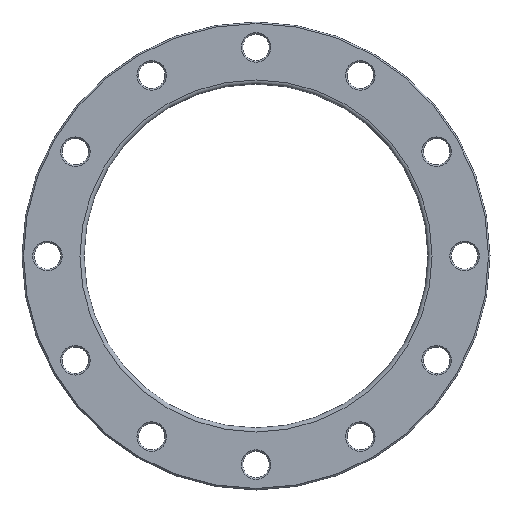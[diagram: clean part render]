
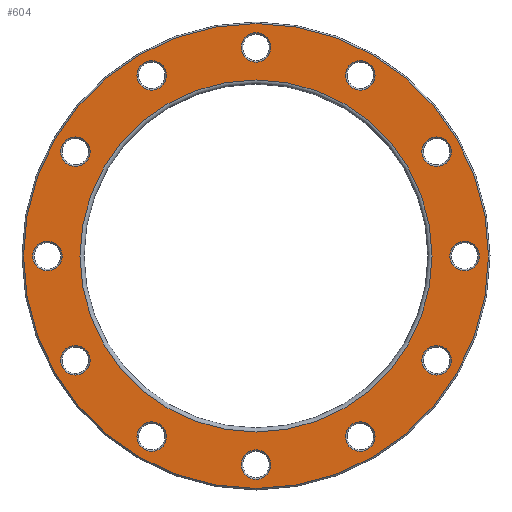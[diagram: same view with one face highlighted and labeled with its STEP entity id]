
A CAD part, front view. The second image highlights one B-rep face of the part: STEP entity #604.
In plain terms, the highlighted planar face has unit normal (0, -1, 0).
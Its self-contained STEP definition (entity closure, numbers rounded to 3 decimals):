
#23=PLANE('',#712);
#134=ORIENTED_EDGE('',*,*,#213,.T.);
#135=ORIENTED_EDGE('',*,*,#214,.T.);
#136=ORIENTED_EDGE('',*,*,#164,.T.);
#137=ORIENTED_EDGE('',*,*,#168,.T.);
#138=ORIENTED_EDGE('',*,*,#172,.T.);
#139=ORIENTED_EDGE('',*,*,#176,.T.);
#140=ORIENTED_EDGE('',*,*,#180,.T.);
#141=ORIENTED_EDGE('',*,*,#184,.T.);
#142=ORIENTED_EDGE('',*,*,#188,.T.);
#143=ORIENTED_EDGE('',*,*,#192,.T.);
#144=ORIENTED_EDGE('',*,*,#196,.T.);
#145=ORIENTED_EDGE('',*,*,#200,.T.);
#146=ORIENTED_EDGE('',*,*,#204,.T.);
#147=ORIENTED_EDGE('',*,*,#215,.T.);
#164=EDGE_CURVE('',#220,#220,#276,.T.);
#168=EDGE_CURVE('',#224,#224,#280,.T.);
#172=EDGE_CURVE('',#228,#228,#284,.T.);
#176=EDGE_CURVE('',#232,#232,#288,.T.);
#180=EDGE_CURVE('',#236,#236,#292,.T.);
#184=EDGE_CURVE('',#240,#240,#296,.T.);
#188=EDGE_CURVE('',#244,#244,#300,.T.);
#192=EDGE_CURVE('',#248,#248,#304,.T.);
#196=EDGE_CURVE('',#252,#252,#308,.T.);
#200=EDGE_CURVE('',#256,#256,#312,.T.);
#204=EDGE_CURVE('',#260,#260,#316,.T.);
#213=EDGE_CURVE('',#269,#269,#325,.F.);
#214=EDGE_CURVE('',#270,#270,#326,.T.);
#215=EDGE_CURVE('',#271,#271,#327,.T.);
#220=VERTEX_POINT('',#935);
#224=VERTEX_POINT('',#946);
#228=VERTEX_POINT('',#957);
#232=VERTEX_POINT('',#968);
#236=VERTEX_POINT('',#979);
#240=VERTEX_POINT('',#990);
#244=VERTEX_POINT('',#1001);
#248=VERTEX_POINT('',#1012);
#252=VERTEX_POINT('',#1023);
#256=VERTEX_POINT('',#1034);
#260=VERTEX_POINT('',#1045);
#269=VERTEX_POINT('',#1068);
#270=VERTEX_POINT('',#1070);
#271=VERTEX_POINT('',#1072);
#276=CIRCLE('',#629,14.5);
#280=CIRCLE('',#636,14.5);
#284=CIRCLE('',#643,14.5);
#288=CIRCLE('',#650,14.5);
#292=CIRCLE('',#657,14.5);
#296=CIRCLE('',#664,14.5);
#300=CIRCLE('',#671,14.5);
#304=CIRCLE('',#678,14.5);
#308=CIRCLE('',#685,14.5);
#312=CIRCLE('',#692,14.5);
#316=CIRCLE('',#699,14.5);
#325=CIRCLE('',#713,228.5);
#326=CIRCLE('',#714,173.);
#327=CIRCLE('',#715,14.5);
#414=EDGE_LOOP('',(#134));
#415=EDGE_LOOP('',(#135));
#416=EDGE_LOOP('',(#136));
#417=EDGE_LOOP('',(#137));
#418=EDGE_LOOP('',(#138));
#419=EDGE_LOOP('',(#139));
#420=EDGE_LOOP('',(#140));
#421=EDGE_LOOP('',(#141));
#422=EDGE_LOOP('',(#142));
#423=EDGE_LOOP('',(#143));
#424=EDGE_LOOP('',(#144));
#425=EDGE_LOOP('',(#145));
#426=EDGE_LOOP('',(#146));
#427=EDGE_LOOP('',(#147));
#526=FACE_BOUND('',#414,.T.);
#527=FACE_BOUND('',#415,.T.);
#528=FACE_BOUND('',#416,.T.);
#529=FACE_BOUND('',#417,.T.);
#530=FACE_BOUND('',#418,.T.);
#531=FACE_BOUND('',#419,.T.);
#532=FACE_BOUND('',#420,.T.);
#533=FACE_BOUND('',#421,.T.);
#534=FACE_BOUND('',#422,.T.);
#535=FACE_BOUND('',#423,.T.);
#536=FACE_BOUND('',#424,.T.);
#537=FACE_BOUND('',#425,.T.);
#538=FACE_BOUND('',#426,.T.);
#539=FACE_BOUND('',#427,.T.);
#604=ADVANCED_FACE('',(#526,#527,#528,#529,#530,#531,#532,#533,#534,#535,
#536,#537,#538,#539),#23,.F.);
#629=AXIS2_PLACEMENT_3D('',#934,#735,#736);
#636=AXIS2_PLACEMENT_3D('',#945,#749,#750);
#643=AXIS2_PLACEMENT_3D('',#956,#763,#764);
#650=AXIS2_PLACEMENT_3D('',#967,#777,#778);
#657=AXIS2_PLACEMENT_3D('',#978,#791,#792);
#664=AXIS2_PLACEMENT_3D('',#989,#805,#806);
#671=AXIS2_PLACEMENT_3D('',#1000,#819,#820);
#678=AXIS2_PLACEMENT_3D('',#1011,#833,#834);
#685=AXIS2_PLACEMENT_3D('',#1022,#847,#848);
#692=AXIS2_PLACEMENT_3D('',#1033,#861,#862);
#699=AXIS2_PLACEMENT_3D('',#1044,#875,#876);
#712=AXIS2_PLACEMENT_3D('',#1066,#901,#902);
#713=AXIS2_PLACEMENT_3D('',#1067,#903,#904);
#714=AXIS2_PLACEMENT_3D('',#1069,#905,#906);
#715=AXIS2_PLACEMENT_3D('',#1071,#907,#908);
#735=DIRECTION('',(0.,1.,0.));
#736=DIRECTION('',(0.866,0.,0.5));
#749=DIRECTION('',(0.,1.,0.));
#750=DIRECTION('',(0.5,0.,0.866));
#763=DIRECTION('',(0.,1.,0.));
#764=DIRECTION('',(0.,0.,1.));
#777=DIRECTION('',(0.,1.,0.));
#778=DIRECTION('',(-0.5,0.,0.866));
#791=DIRECTION('',(0.,1.,0.));
#792=DIRECTION('',(-0.866,0.,0.5));
#805=DIRECTION('',(0.,1.,0.));
#806=DIRECTION('',(-1.,0.,0.));
#819=DIRECTION('',(0.,1.,0.));
#820=DIRECTION('',(-0.866,0.,-0.5));
#833=DIRECTION('',(0.,1.,0.));
#834=DIRECTION('',(-0.5,0.,-0.866));
#847=DIRECTION('',(0.,1.,0.));
#848=DIRECTION('',(0.,0.,-1.));
#861=DIRECTION('',(0.,1.,0.));
#862=DIRECTION('',(0.5,0.,-0.866));
#875=DIRECTION('',(0.,1.,0.));
#876=DIRECTION('',(0.866,0.,-0.5));
#901=DIRECTION('',(0.,1.,0.));
#902=DIRECTION('',(0.,0.,1.));
#903=DIRECTION('',(0.,1.,0.));
#904=DIRECTION('',(0.,0.,1.));
#905=DIRECTION('',(0.,1.,0.));
#906=DIRECTION('',(0.,0.,1.));
#907=DIRECTION('',(0.,1.,0.));
#908=DIRECTION('',(1.,0.,0.));
#934=CARTESIAN_POINT('',(-102.5,0.,177.535));
#935=CARTESIAN_POINT('',(-89.943,0.,184.785));
#945=CARTESIAN_POINT('',(-177.535,0.,102.5));
#946=CARTESIAN_POINT('',(-170.285,0.,115.057));
#956=CARTESIAN_POINT('',(-205.,0.,0.));
#957=CARTESIAN_POINT('',(-205.,0.,14.5));
#967=CARTESIAN_POINT('',(-177.535,0.,-102.5));
#968=CARTESIAN_POINT('',(-184.785,0.,-89.943));
#978=CARTESIAN_POINT('',(-102.5,0.,-177.535));
#979=CARTESIAN_POINT('',(-115.057,0.,-170.285));
#989=CARTESIAN_POINT('',(0.,0.,-205.));
#990=CARTESIAN_POINT('',(-14.5,0.,-205.));
#1000=CARTESIAN_POINT('',(102.5,0.,-177.535));
#1001=CARTESIAN_POINT('',(89.943,0.,-184.785));
#1011=CARTESIAN_POINT('',(177.535,0.,-102.5));
#1012=CARTESIAN_POINT('',(170.285,0.,-115.057));
#1022=CARTESIAN_POINT('',(205.,0.,0.));
#1023=CARTESIAN_POINT('',(205.,0.,-14.5));
#1033=CARTESIAN_POINT('',(177.535,0.,102.5));
#1034=CARTESIAN_POINT('',(184.785,0.,89.943));
#1044=CARTESIAN_POINT('',(102.5,0.,177.535));
#1045=CARTESIAN_POINT('',(115.057,0.,170.285));
#1066=CARTESIAN_POINT('',(0.,0.,0.));
#1067=CARTESIAN_POINT('',(0.,0.,0.));
#1068=CARTESIAN_POINT('',(0.,0.,228.5));
#1069=CARTESIAN_POINT('',(0.,0.,0.));
#1070=CARTESIAN_POINT('',(0.,0.,173.));
#1071=CARTESIAN_POINT('',(0.,0.,205.));
#1072=CARTESIAN_POINT('',(14.5,0.,205.));
